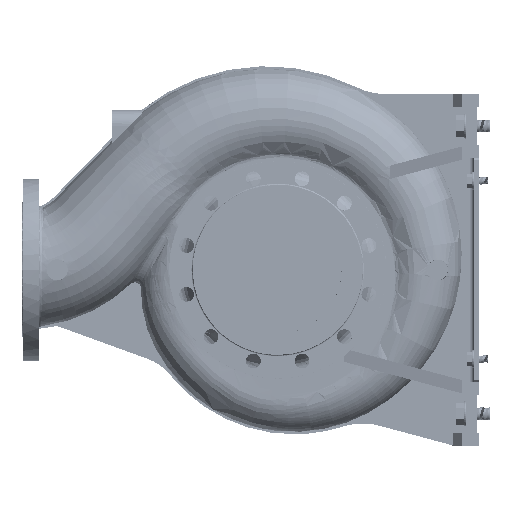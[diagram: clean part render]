
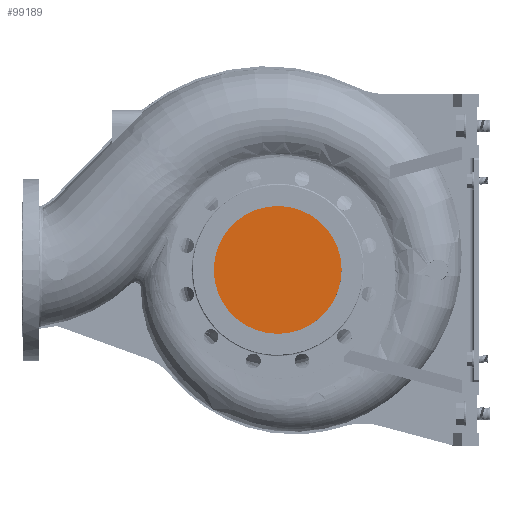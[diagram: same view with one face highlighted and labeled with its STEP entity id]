
A CAD part, left-side view. The second image highlights one B-rep face of the part: STEP entity #99189.
In plain terms, the highlighted planar face has unit normal (-1, 0, 0).
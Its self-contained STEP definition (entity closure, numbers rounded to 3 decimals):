
#626 = CARTESIAN_POINT ( 'NONE',  ( -149.998, -75.339, 66.083 ) ) ;
#780 = CARTESIAN_POINT ( 'NONE',  ( -149.998, 96.802, 25.928 ) ) ;
#2045 = CARTESIAN_POINT ( 'NONE',  ( -149.998, 6.545, 100. ) ) ;
#2673 = PLANE ( 'NONE',  #166588 ) ;
#5192 = DIRECTION ( 'NONE',  ( -1., 0., 0. ) ) ;
#16157 = CARTESIAN_POINT ( 'NONE',  ( -149.998, 25.928, 96.802 ) ) ;
#17404 = CARTESIAN_POINT ( 'NONE',  ( -149.998, 0., 100. ) ) ;
#18652 = CARTESIAN_POINT ( 'NONE',  ( -149.998, 13.09, 99.355 ) ) ;
#19741 = CARTESIAN_POINT ( 'NONE',  ( -149.998, -99.355, -13.09 ) ) ;
#19900 = CARTESIAN_POINT ( 'NONE',  ( -149.998, 94.893, 32.222 ) ) ;
#20532 = CARTESIAN_POINT ( 'NONE',  ( -149.998, 0., -100. ) ) ;
#20542 = DIRECTION ( 'NONE',  ( 0., 0., 1. ) ) ;
#21001 = CARTESIAN_POINT ( 'NONE',  ( -149.998, -32.222, -94.893 ) ) ;
#21161 = CARTESIAN_POINT ( 'NONE',  ( -149.998, 79.511, -60.999 ) ) ;
#23711 = ORIENTED_EDGE ( 'NONE', *, *, #108088, .F. ) ;
#23749 = B_SPLINE_CURVE_WITH_KNOTS ( 'NONE', 3,
 ( #178324, #142570, #159215, #220312, #45622, #123399, #177062, #214832, #194478, #626, #117933, #36395, #137082, #249377, #40146, #232723, #41412, #75911, #19741, #78434, #115441, #195730, #55524, #138358, #98819, #175396, #77175, #216098, #95060, #21001, #133330, #176648, #119212, #156245 ),
 .UNSPECIFIED., .F., .F.,
 ( 4, 2, 2, 2, 2, 2, 2, 2, 2, 2, 2, 2, 2, 2, 2, 2, 4 ),
 ( 0., 0.063, 0.125, 0.188, 0.25, 0.313, 0.375, 0.438, 0.5, 0.562, 0.625, 0.687, 0.75, 0.812, 0.875, 0.937, 1. ),
 .UNSPECIFIED. ) ;
#36395 = CARTESIAN_POINT ( 'NONE',  ( -149.998, -86.783, 50.115 ) ) ;
#37800 = CARTESIAN_POINT ( 'NONE',  ( -149.998, 50.115, -86.783 ) ) ;
#40146 = CARTESIAN_POINT ( 'NONE',  ( -149.998, -96.802, 25.928 ) ) ;
#41412 = CARTESIAN_POINT ( 'NONE',  ( -149.998, -100., 6.545 ) ) ;
#45622 = CARTESIAN_POINT ( 'NONE',  ( -149.998, -32.222, 94.893 ) ) ;
#52753 = B_SPLINE_CURVE_WITH_KNOTS ( 'NONE', 3,
 ( #252031, #155149, #190901, #74815, #176807, #231619, #37800, #195894, #230374, #193387, #21161, #116837, #96457, #114357, #113112, #174291, #249525, #250774, #76069, #780, #19900, #98972, #55681, #135986, #194631, #77327, #78593, #59444, #232876, #153902, #16157, #18652, #2045, #17404 ),
 .UNSPECIFIED., .F., .F.,
 ( 4, 2, 2, 2, 2, 2, 2, 2, 2, 2, 2, 2, 2, 2, 2, 2, 4 ),
 ( 0., 0.062, 0.125, 0.187, 0.25, 0.312, 0.375, 0.437, 0.5, 0.562, 0.625, 0.687, 0.75, 0.812, 0.875, 0.937, 1. ),
 .UNSPECIFIED. ) ;
#55524 = CARTESIAN_POINT ( 'NONE',  ( -149.998, -86.783, -50.115 ) ) ;
#55681 = CARTESIAN_POINT ( 'NONE',  ( -149.998, 86.783, 50.115 ) ) ;
#59444 = CARTESIAN_POINT ( 'NONE',  ( -149.998, 50.115, 86.783 ) ) ;
#62607 = FACE_OUTER_BOUND ( 'NONE', #73853, .T. ) ;
#73853 = EDGE_LOOP ( 'NONE', ( #139721, #23711 ) ) ;
#74815 = CARTESIAN_POINT ( 'NONE',  ( -149.998, 25.928, -96.802 ) ) ;
#75911 = CARTESIAN_POINT ( 'NONE',  ( -149.998, -100., -6.545 ) ) ;
#76069 = CARTESIAN_POINT ( 'NONE',  ( -149.998, 99.355, 13.09 ) ) ;
#77175 = CARTESIAN_POINT ( 'NONE',  ( -149.998, -60.999, -79.511 ) ) ;
#77327 = CARTESIAN_POINT ( 'NONE',  ( -149.998, 66.083, 75.339 ) ) ;
#78434 = CARTESIAN_POINT ( 'NONE',  ( -149.998, -96.802, -25.928 ) ) ;
#78593 = CARTESIAN_POINT ( 'NONE',  ( -149.998, 60.999, 79.511 ) ) ;
#95060 = CARTESIAN_POINT ( 'NONE',  ( -149.998, -44.315, -89.883 ) ) ;
#96457 = CARTESIAN_POINT ( 'NONE',  ( -149.998, 89.883, -44.315 ) ) ;
#98819 = CARTESIAN_POINT ( 'NONE',  ( -149.998, -75.339, -66.083 ) ) ;
#98972 = CARTESIAN_POINT ( 'NONE',  ( -149.998, 89.883, 44.315 ) ) ;
#99189 = ADVANCED_FACE ( 'NONE', ( #62607 ), #2673, .T. ) ;
#108088 = EDGE_CURVE ( 'NONE', #132432, #233416, #23749, .T. ) ;
#113112 = CARTESIAN_POINT ( 'NONE',  ( -149.998, 96.802, -25.928 ) ) ;
#114357 = CARTESIAN_POINT ( 'NONE',  ( -149.998, 94.893, -32.222 ) ) ;
#115441 = CARTESIAN_POINT ( 'NONE',  ( -149.998, -94.893, -32.222 ) ) ;
#116837 = CARTESIAN_POINT ( 'NONE',  ( -149.998, 86.783, -50.115 ) ) ;
#117933 = CARTESIAN_POINT ( 'NONE',  ( -149.998, -79.511, 60.999 ) ) ;
#119212 = CARTESIAN_POINT ( 'NONE',  ( -149.998, -6.545, -100. ) ) ;
#123399 = CARTESIAN_POINT ( 'NONE',  ( -149.998, -44.315, 89.883 ) ) ;
#132432 = VERTEX_POINT ( 'NONE', #195507 ) ;
#133330 = CARTESIAN_POINT ( 'NONE',  ( -149.998, -25.928, -96.802 ) ) ;
#135986 = CARTESIAN_POINT ( 'NONE',  ( -149.998, 79.511, 60.999 ) ) ;
#137082 = CARTESIAN_POINT ( 'NONE',  ( -149.998, -89.883, 44.315 ) ) ;
#138358 = CARTESIAN_POINT ( 'NONE',  ( -149.998, -79.511, -60.999 ) ) ;
#139721 = ORIENTED_EDGE ( 'NONE', *, *, #148598, .F. ) ;
#142570 = CARTESIAN_POINT ( 'NONE',  ( -149.998, -6.545, 100. ) ) ;
#148598 = EDGE_CURVE ( 'NONE', #233416, #132432, #52753, .T. ) ;
#153902 = CARTESIAN_POINT ( 'NONE',  ( -149.998, 32.222, 94.893 ) ) ;
#155149 = CARTESIAN_POINT ( 'NONE',  ( -149.998, 6.545, -100. ) ) ;
#156245 = CARTESIAN_POINT ( 'NONE',  ( -149.998, 0., -100. ) ) ;
#159215 = CARTESIAN_POINT ( 'NONE',  ( -149.998, -13.09, 99.355 ) ) ;
#166588 = AXIS2_PLACEMENT_3D ( 'NONE', #214372, #5192, #20542 ) ;
#174291 = CARTESIAN_POINT ( 'NONE',  ( -149.998, 99.355, -13.09 ) ) ;
#175396 = CARTESIAN_POINT ( 'NONE',  ( -149.998, -66.083, -75.339 ) ) ;
#176648 = CARTESIAN_POINT ( 'NONE',  ( -149.998, -13.09, -99.355 ) ) ;
#176807 = CARTESIAN_POINT ( 'NONE',  ( -149.998, 32.222, -94.893 ) ) ;
#177062 = CARTESIAN_POINT ( 'NONE',  ( -149.998, -50.115, 86.783 ) ) ;
#178324 = CARTESIAN_POINT ( 'NONE',  ( -149.998, 0., 100. ) ) ;
#190901 = CARTESIAN_POINT ( 'NONE',  ( -149.998, 13.09, -99.355 ) ) ;
#193387 = CARTESIAN_POINT ( 'NONE',  ( -149.998, 75.339, -66.083 ) ) ;
#194478 = CARTESIAN_POINT ( 'NONE',  ( -149.998, -66.083, 75.339 ) ) ;
#194631 = CARTESIAN_POINT ( 'NONE',  ( -149.998, 75.339, 66.083 ) ) ;
#195507 = CARTESIAN_POINT ( 'NONE',  ( -149.998, 0., 100. ) ) ;
#195730 = CARTESIAN_POINT ( 'NONE',  ( -149.998, -89.883, -44.315 ) ) ;
#195894 = CARTESIAN_POINT ( 'NONE',  ( -149.998, 60.999, -79.511 ) ) ;
#214372 = CARTESIAN_POINT ( 'NONE',  ( -149.998, -101.2, -101.2 ) ) ;
#214832 = CARTESIAN_POINT ( 'NONE',  ( -149.998, -60.999, 79.511 ) ) ;
#216098 = CARTESIAN_POINT ( 'NONE',  ( -149.998, -50.115, -86.783 ) ) ;
#220312 = CARTESIAN_POINT ( 'NONE',  ( -149.998, -25.928, 96.802 ) ) ;
#230374 = CARTESIAN_POINT ( 'NONE',  ( -149.998, 66.083, -75.339 ) ) ;
#231619 = CARTESIAN_POINT ( 'NONE',  ( -149.998, 44.315, -89.883 ) ) ;
#232723 = CARTESIAN_POINT ( 'NONE',  ( -149.998, -99.355, 13.09 ) ) ;
#232876 = CARTESIAN_POINT ( 'NONE',  ( -149.998, 44.315, 89.883 ) ) ;
#233416 = VERTEX_POINT ( 'NONE', #20532 ) ;
#249377 = CARTESIAN_POINT ( 'NONE',  ( -149.998, -94.893, 32.222 ) ) ;
#249525 = CARTESIAN_POINT ( 'NONE',  ( -149.998, 100., -6.545 ) ) ;
#250774 = CARTESIAN_POINT ( 'NONE',  ( -149.998, 100., 6.545 ) ) ;
#252031 = CARTESIAN_POINT ( 'NONE',  ( -149.998, 0., -100. ) ) ;
